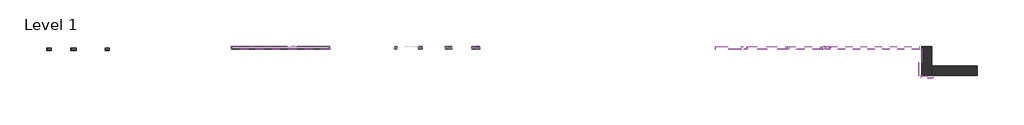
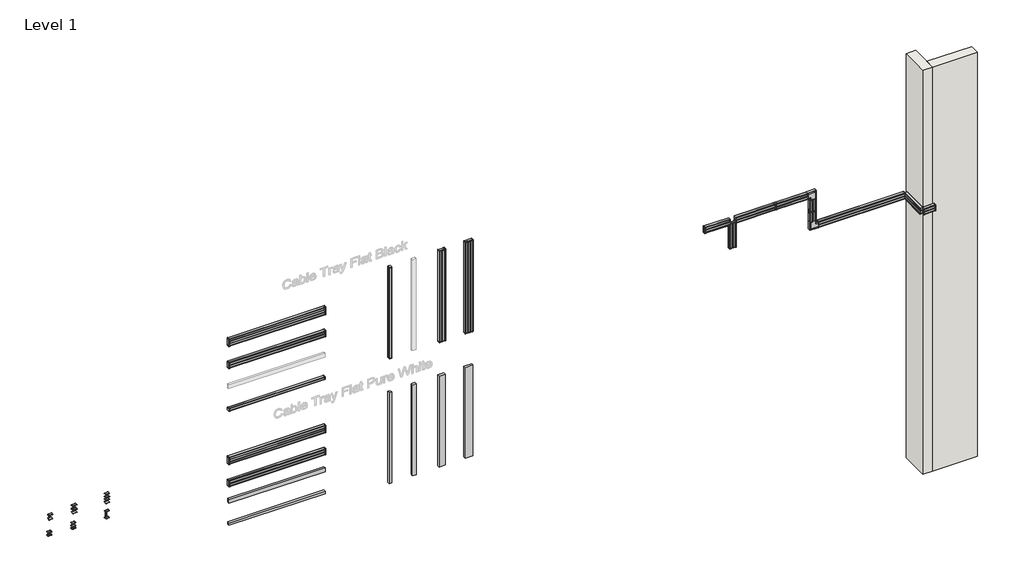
# One storey, part 1 of 2: 25 cable carrier segments, 17 proxies, 10 cable carrier fittings, 2 walls.
"""IFC4 building model written with IfcOpenShell, lengths in millimetres."""

from ifc_helpers import new_model, si_unit, frame, origin, origin_with_axes, place, context, project, spatial, polyline, outline, extrude, faceted_brep, transform, mapped, element, save
from components import ral_9010_pure_white_24a87ea1, ral_9010_pure_white_cb93105c, ral_9010_pure_white_18c5e684, ral_9010_pure_white_778c62ee, ral_9010_pure_white_cfcdc44b, ral_9010_pure_white_86e4e6ea, ral_9010_pure_white_c8628359, ral_9010_pure_white_5f65953f, ral_9010_pure_white_1ca076a8, ral_9010_pure_white_3e9eb4af, ral_9010_pure_white_502b18de, ral_9010_pure_white_b63ba4a8, ral_9010_pure_white_168bbefd, ral_9010_pure_white_928185f8, ral_9010_pure_white_964dc75e, ral_9010_pure_white_dbe64c38, ral_9010_pure_white_ffbb5359, ral_9010_pure_white_e169edea, ral_9010_pure_white_cb2eff81, ral_9010_pure_white_ebf5c71a

model = new_model("IFC4")

# Units and contexts
model_context = context("Model", 3, world=origin())
ifc_project = project(units=[si_unit("LENGTHUNIT", "METRE", prefix="MILLI")], contexts=[model_context])

# Site, building, storey
site = spatial("IfcSite", under=ifc_project)
building = spatial("IfcBuilding", under=site)
storey = spatial("IfcBuildingStorey", under=building, Name="Level 1", Elevation=4000.0)

# Proxies
placement = place(None, origin())
ral_9010_pure_white_shape = ral_9010_pure_white_24a87ea1(model_context)
element("IfcBuildingElementProxy", 1, Name="Electrical_Installations_Hager_GBD-Flat-Lid-End-Cap : RAL 9010 - pure white", ObjectType="Electrical_Installations_Hager_GBD-Flat-Lid-End-Cap : RAL 9010 - pure white", at=placement, inside=storey, context=model_context, shape_type="MappedRepresentation", body=[
    mapped(ral_9010_pure_white_shape, transform((-15206.2821542, 2571.5260198, 4915.9145405), x_axis=(1.0, 0.0, 0.0), y_axis=(0.0, 0.0, 1.0), z_axis=(0.0, -1.0, 0.0))),
])
ral_9010_pure_white_2_shape = ral_9010_pure_white_cb93105c(model_context)
element("IfcBuildingElementProxy", 2, Name="Electrical_Installations_Hager_GBD-Flat-Lid-End-Cap : RAL 9010 - pure white", ObjectType="Electrical_Installations_Hager_GBD-Flat-Lid-End-Cap : RAL 9010 - pure white", at=placement, inside=storey, context=model_context, shape_type="MappedRepresentation", body=[
    mapped(ral_9010_pure_white_2_shape, transform((-15206.2821542, 2571.5260198, 4415.9145405), x_axis=(1.0, 0.0, 0.0), y_axis=(0.0, 0.0, 1.0), z_axis=(0.0, -1.0, 0.0))),
])
ral_9010_pure_white_3_shape = ral_9010_pure_white_18c5e684(model_context)
element("IfcBuildingElementProxy", 3, Name="Electrical_Installations_Hager_GBD-Flat-Lid-End-Cap : RAL 9010 - pure white", ObjectType="Electrical_Installations_Hager_GBD-Flat-Lid-End-Cap : RAL 9010 - pure white", at=placement, inside=storey, context=model_context, shape_type="MappedRepresentation", body=[
    mapped(ral_9010_pure_white_3_shape, transform((-4716.3370055, 2567.1090613, 6480.3807305), x_axis=(0.0, 0.0, -1.0), y_axis=(1.0, 0.0, 0.0), z_axis=(0.0, -1.0, 0.0))),
])
ral_9010_pure_white_4_shape = ral_9010_pure_white_778c62ee(model_context)
element("IfcBuildingElementProxy", 4, Name="Electrical_Installations_Hager_GBD-Flat-Lid-End-Cap : RAL 9010 - pure white", ObjectType="Electrical_Installations_Hager_GBD-Flat-Lid-End-Cap : RAL 9010 - pure white", at=placement, inside=storey, context=model_context, shape_type="MappedRepresentation", body=[
    mapped(ral_9010_pure_white_4_shape, transform((-4776.3370055, 2567.1090613, 6523.4193548), x_axis=(-1.0, 0.0, 0.0), y_axis=(0.0, 0.0, -1.0), z_axis=(0.0, -1.0, 0.0))),
])
ral_9010_pure_white_5_shape = ral_9010_pure_white_cfcdc44b(model_context)
element("IfcBuildingElementProxy", 5, Name="Electrical_Installations_Hager_GBD-Flat-Lid-End-Cap : RAL 9010 - pure white", ObjectType="Electrical_Installations_Hager_GBD-Flat-Lid-End-Cap : RAL 9010 - pure white", at=placement, inside=storey, context=model_context, shape_type="MappedRepresentation", body=[
    mapped(ral_9010_pure_white_5_shape, transform((-1085.6995042, 1968.5645857, 5823.4), x_axis=(1.0, 0.0, 0.0), y_axis=(0.0, 0.0, 1.0), z_axis=(0.0, -1.0, 0.0))),
])
ral_9010_pure_white_6_shape = ral_9010_pure_white_86e4e6ea(model_context)
element("IfcBuildingElementProxy", 6, Name="Electrical_Installations_Hager_GBD-Flat-Lid-End-Cap : RAL 9010 - pure white", ObjectType="Electrical_Installations_Hager_GBD-Flat-Lid-End-Cap : RAL 9010 - pure white", at=placement, inside=storey, context=model_context, shape_type="MappedRepresentation", body=[
    mapped(ral_9010_pure_white_6_shape, transform((-2946.4405852, 2567.2503218, 5823.4053889), x_axis=(0.9999999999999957, 0.0, 9.40858470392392e-08), y_axis=(-9.408584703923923e-08, 0.0, 0.9999999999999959), z_axis=(0.0, -1.0000000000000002, 0.0))),
])
ral_9010_pure_white_7_shape = ral_9010_pure_white_c8628359(model_context)
element("IfcBuildingElementProxy", 7, Name="Electrical_Installations_Hager_GBD-Flat-Lid-End-Cap : RAL 9010 - pure white", ObjectType="Electrical_Installations_Hager_GBD-Flat-Lid-End-Cap : RAL 9010 - pure white", at=placement, inside=storey, context=model_context, shape_type="MappedRepresentation", body=[
    mapped(ral_9010_pure_white_7_shape, transform((-1081.3370042, 1964.2020857, 5823.4001917), x_axis=(0.0, 0.9999999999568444, 9.290384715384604e-06), y_axis=(0.0, 9.290384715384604e-06, -0.9999999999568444), z_axis=(-1.0, 0.0, 0.0))),
])
ral_9010_pure_white_8_shape = ral_9010_pure_white_5f65953f(model_context)
element("IfcBuildingElementProxy", 8, Name="Electrical_Installations_Hager_GBD-Flat-Lid-End-Cap : RAL 9010 - pure white", ObjectType="Electrical_Installations_Hager_GBD-Flat-Lid-End-Cap : RAL 9010 - pure white", at=placement, inside=storey, context=model_context, shape_type="MappedRepresentation", body=[
    mapped(ral_9010_pure_white_8_shape, transform((-3825.3162411, 2567.1819567, 6523.4197288), x_axis=(0.9999999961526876, 8.771785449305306e-05, 4.5007788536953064e-07), y_axis=(-4.500778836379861e-07, -3.94798664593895e-11, 0.9999999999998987), z_axis=(8.771785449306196e-05, -0.9999999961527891, 0.0))),
])
ral_9010_pure_white_9_shape = ral_9010_pure_white_1ca076a8(model_context)
element("IfcBuildingElementProxy", 9, Name="Electrical_Installations_Hager_GBD-Flat-Lid-End-Cap : RAL 9010 - pure white", ObjectType="Electrical_Installations_Hager_GBD-Flat-Lid-End-Cap : RAL 9010 - pure white", at=placement, inside=storey, context=model_context, shape_type="MappedRepresentation", body=[
    mapped(ral_9010_pure_white_9_shape, transform((-4656.3391985, 2567.1090612, 6523.4193548), x_axis=(0.9999999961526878, 8.771785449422e-05, 4.5007788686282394e-07), y_axis=(-4.500778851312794e-07, -3.94798665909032e-11, 0.9999999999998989), z_axis=(8.771785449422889e-05, -0.9999999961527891, 0.0))),
])
ral_9010_pure_white_10_shape = ral_9010_pure_white_3e9eb4af(model_context)
element("IfcBuildingElementProxy", 10, Name="Electrical_Installations_Hager_GBD-Flat-Lid-End-Cap : RAL 9010 - pure white", ObjectType="Electrical_Installations_Hager_GBD-Flat-Lid-End-Cap : RAL 9010 - pure white", at=placement, inside=storey, context=model_context, shape_type="MappedRepresentation", body=[
    mapped(ral_9010_pure_white_10_shape, transform((-3045.9405404, 2567.2503218, 6423.9200796), x_axis=(-7.457403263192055e-08, 0.0, -0.9999999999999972), y_axis=(0.9999999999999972, 0.0, -7.457403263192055e-08), z_axis=(0.0, -1.0, 8.178882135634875e-12))),
])
ral_9010_pure_white_11_shape = ral_9010_pure_white_502b18de(model_context)
element("IfcBuildingElementProxy", 11, Name="Electrical_Installations_Hager_GBD-Flat-Lid-End-Cap : RAL 9010 - pure white", ObjectType="Electrical_Installations_Hager_GBD-Flat-Lid-End-Cap : RAL 9010 - pure white", at=placement, inside=storey, context=model_context, shape_type="MappedRepresentation", body=[
    mapped(ral_9010_pure_white_11_shape, transform((-3045.9405608, 2567.2503218, 6150.7169347), x_axis=(-7.457403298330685e-08, 0.0, -0.9999999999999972), y_axis=(0.9999999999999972, 0.0, -7.457403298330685e-08), z_axis=(0.0, -1.0, 7.391453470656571e-12))),
])
element("IfcBuildingElementProxy", 12, Name="Electrical_Installations_Hager_GBD-Flat-Lid-End-Cap : RAL 9011 - black", ObjectType="Electrical_Installations_Hager_GBD-Flat-Lid-End-Cap : RAL 9011 - black", at=placement, inside=storey, context=model_context, shape_type="MappedRepresentation", body=[
    mapped(ral_9010_pure_white_shape, transform((-15206.2821542, 2571.5260198, 7515.9145405), x_axis=(1.0, 0.0, 0.0), y_axis=(0.0, 0.0, 1.0), z_axis=(0.0, -1.0, 0.0))),
])
element("IfcBuildingElementProxy", 13, Name="Electrical_Installations_Hager_GBD-Flat-Lid-End-Cap : RAL 9011 - black", ObjectType="Electrical_Installations_Hager_GBD-Flat-Lid-End-Cap : RAL 9011 - black", at=placement, inside=storey, context=model_context, shape_type="MappedRepresentation", body=[
    mapped(ral_9010_pure_white_shape, transform((-10205.0321542, 2571.5260198, 7994.6645405), x_axis=(0.0, 0.0, -1.0), y_axis=(1.0, 0.0, 0.0), z_axis=(0.0, -1.0, 0.0))),
])
element("IfcBuildingElementProxy", 14, Name="Electrical_Installations_Hager_GBD-Flat-Lid-End-Cap : RAL 9011 - black", ObjectType="Electrical_Installations_Hager_GBD-Flat-Lid-End-Cap : RAL 9011 - black", at=placement, inside=storey, context=model_context, shape_type="MappedRepresentation", body=[
    mapped(ral_9010_pure_white_2_shape, transform((-15206.2821542, 2571.5260198, 7015.9145405), x_axis=(1.0, 0.0, 0.0), y_axis=(0.0, 0.0, 1.0), z_axis=(0.0, -1.0, 0.0))),
])
element("IfcBuildingElementProxy", 15, Name="Electrical_Installations_Hager_GBD-Flat-Lid-End-Cap : RAL 9011 - black", ObjectType="Electrical_Installations_Hager_GBD-Flat-Lid-End-Cap : RAL 9011 - black", at=placement, inside=storey, context=model_context, shape_type="MappedRepresentation", body=[
    mapped(ral_9010_pure_white_2_shape, transform((-10765.0321542, 2571.5260198, 7994.6645405), x_axis=(0.0, 0.0, -1.0), y_axis=(1.0, 0.0, 0.0), z_axis=(0.0, -1.0, 0.0))),
])
ral_9010_pure_white_12_shape = ral_9010_pure_white_b63ba4a8(model_context)
element("IfcBuildingElementProxy", 16, Name="Electrical_Installations_Hager_GBD-Flat-Lid-End-Cap : RAL 9011 - black", ObjectType="Electrical_Installations_Hager_GBD-Flat-Lid-End-Cap : RAL 9011 - black", at=placement, inside=storey, context=model_context, shape_type="MappedRepresentation", body=[
    mapped(ral_9010_pure_white_12_shape, transform((-15206.2821542, 2571.5260198, 6035.9145405), x_axis=(1.0, 0.0, 0.0), y_axis=(0.0, 0.0, 1.0), z_axis=(0.0, -1.0, 0.0))),
])
element("IfcBuildingElementProxy", 17, Name="Electrical_Installations_Hager_GBD-Flat-Lid-End-Cap : RAL 9011 - black", ObjectType="Electrical_Installations_Hager_GBD-Flat-Lid-End-Cap : RAL 9011 - black", at=placement, inside=storey, context=model_context, shape_type="MappedRepresentation", body=[
    mapped(ral_9010_pure_white_12_shape, transform((-11845.0321542, 2571.5260198, 7994.6645405), x_axis=(0.0, 0.0, -1.0), y_axis=(1.0, 0.0, 0.0), z_axis=(0.0, -1.0, 0.0))),
])

# Cable carrier fittings
ral_9010_pure_white_13_shape = ral_9010_pure_white_168bbefd(model_context)
element("IfcCableCarrierFitting", 18, ObjectType="Electrical_Installations_Hager_GBD-Joint-Cover-And-Coupling-Piece-Curved : RAL 9010 - pure white", at=placement, inside=storey, context=model_context, shape_type="MappedRepresentation", body=[
    mapped(ral_9010_pure_white_13_shape, transform((-18446.2821542, 2511.5081828, 4995.9145405), x_axis=(1.0, 0.0, 0.0), y_axis=(0.0, 1.0, 0.0), z_axis=(0.0, 0.0, 1.0))),
])
ral_9010_pure_white_14_shape = ral_9010_pure_white_928185f8(model_context)
element("IfcCableCarrierFitting", 19, ObjectType="Electrical_Installations_Hager_GBD-Joint-Cover-And-Coupling-Piece-Curved : RAL 9010 - pure white", at=placement, inside=storey, context=model_context, shape_type="MappedRepresentation", body=[
    mapped(ral_9010_pure_white_14_shape, transform((-18946.2821542, 2511.5081828, 4995.9145405), x_axis=(1.0, 0.0, 0.0), y_axis=(0.0, 1.0, 0.0), z_axis=(0.0, 0.0, 1.0))),
])
ral_9010_pure_white_15_shape = ral_9010_pure_white_964dc75e(model_context)
element("IfcCableCarrierFitting", 20, ObjectType="Electrical_Installations_Hager_GBD-Joint-Cover-And-Coupling-Piece-Flat : RAL 9010 - pure white", at=placement, inside=storey, context=model_context, shape_type="MappedRepresentation", body=[
    mapped(ral_9010_pure_white_15_shape, transform((-3812.8140482, 2542.1830533, 6523.4197345), x_axis=(-0.9999999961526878, -8.771785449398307e-05, -4.500778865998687e-07), y_axis=(8.77178544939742e-05, -0.9999999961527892, 3.947986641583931e-11), z_axis=(-4.500778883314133e-07, 0.0, 0.9999999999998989))),
])
element("IfcCableCarrierFitting", 21, ObjectType="Electrical_Installations_Hager_GBD-Joint-Cover-And-Coupling-Piece-Flat : RAL 9010 - pure white", at=placement, inside=storey, context=model_context, shape_type="MappedRepresentation", body=[
    mapped(ral_9010_pure_white_15_shape, transform((-3045.9405617, 2542.2503218, 6138.2169347), x_axis=(7.457403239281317e-08, 0.0, 0.9999999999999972), y_axis=(0.0, -1.0, 0.0), z_axis=(0.9999999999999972, 0.0, -7.457403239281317e-08))),
])
element("IfcCableCarrierFitting", 22, ObjectType="Electrical_Installations_Hager_GBD-Joint-Cover-And-Coupling-Piece-Flat : RAL 9010 - pure white", at=placement, inside=storey, context=model_context, shape_type="MappedRepresentation", body=[
    mapped(ral_9010_pure_white_15_shape, transform((-18466.2821542, 2511.5081828, 4636.1536122), x_axis=(1.0, 0.0, 0.0), y_axis=(0.0, 1.0, 0.0), z_axis=(0.0, 0.0, 1.0))),
])
ral_9010_pure_white_16_shape = ral_9010_pure_white_dbe64c38(model_context)
element("IfcCableCarrierFitting", 23, ObjectType="Electrical_Installations_Hager_GBD-Joint-Cover-And-Coupling-Piece-Flat : RAL 9010 - pure white", at=placement, inside=storey, context=model_context, shape_type="MappedRepresentation", body=[
    mapped(ral_9010_pure_white_16_shape, transform((-18966.2821542, 2511.5081828, 4634.6497476), x_axis=(1.0, 0.0, 0.0), y_axis=(0.0, 1.0, 0.0), z_axis=(0.0, 0.0, 1.0))),
])
ral_9010_pure_white_17_shape = ral_9010_pure_white_ffbb5359(model_context)
element("IfcCableCarrierFitting", 24, ObjectType="Electrical_Installations_Hager_GBD-Flat-Corner-Vertical-Inside-And-Outside-Bend-Flat : RAL 9010 - pure white", at=placement, inside=storey, context=model_context, shape_type="MappedRepresentation", body=[
    mapped(ral_9010_pure_white_17_shape, transform((-3045.9405852, 2542.2503218, 6523.4200796), x_axis=(0.9999999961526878, 8.771785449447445e-05, 4.5007788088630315e-07), y_axis=(4.5007787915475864e-07, 3.9479866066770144e-11, -0.9999999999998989), z_axis=(-8.771785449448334e-05, 0.9999999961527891, 0.0))),
])
ral_9010_pure_white_18_shape = ral_9010_pure_white_e169edea(model_context)
element("IfcCableCarrierFitting", 25, ObjectType="Electrical_Installations_Hager_GBD-Flat-Corner-Vertical-Inside-And-Outside-Bend-Flat : RAL 9010 - pure white", at=placement, inside=storey, context=model_context, shape_type="MappedRepresentation", body=[
    mapped(ral_9010_pure_white_18_shape, transform((-3045.9405852, 2542.2503218, 5823.4053963), x_axis=(-7.457401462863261e-08, 0.0, -0.9999999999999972), y_axis=(0.9999999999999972, 0.0, -7.457401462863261e-08), z_axis=(0.0, -1.0, 0.0))),
])
ral_9010_pure_white_19_shape = ral_9010_pure_white_cb2eff81(model_context)
element("IfcCableCarrierFitting", 26, ObjectType="Electrical_Installations_Hager_GBD-Joint-Cover-And-Coupling-Piece-Curved : RAL 9010 - pure white", at=placement, inside=storey, context=model_context, shape_type="MappedRepresentation", body=[
    mapped(ral_9010_pure_white_19_shape, transform((-17766.2821542, 2511.5081828, 4995.9145405), x_axis=(1.0, 0.0, 0.0), y_axis=(0.0, 1.0, 0.0), z_axis=(0.0, 0.0, 1.0))),
])
ral_9010_pure_white_20_shape = ral_9010_pure_white_ebf5c71a(model_context)
element("IfcCableCarrierFitting", 27, ObjectType="Electrical_Installations_Hager_GBD-Joint-Cover-And-Coupling-Piece-Flat : RAL 9010 - pure white", at=placement, inside=storey, context=model_context, shape_type="MappedRepresentation", body=[
    mapped(ral_9010_pure_white_20_shape, transform((-17766.2821542, 2511.5081828, 4636.1536122), x_axis=(1.0, 0.0, 0.0), y_axis=(0.0, 1.0, 0.0), z_axis=(0.0, 0.0, 1.0))),
])

# Cable carrier segments
element("IfcCableCarrierSegment", 28, ObjectType="Electrical_Installations_Hager_Trunking-GBD-RAL9011-Black-Upper-Part-Flat", at=placement, inside=storey, context=model_context, shape_type="SweptSolid", body=[
    extrude(outline(polyline([(-15206.2821542, 2521.5260198), (-15206.2821542, 2571.5260198), (-13206.2821542, 2571.5260198), (-13206.2821542, 2521.5260198), (-15206.2821542, 2521.5260198)])), frame((0.0, 0.0, 6010.9145405), z_axis=(0.0, 0.0, 1.0), x_axis=(1.0, 0.0, 0.0)), (0.0, 0.0, 1.0), 50.0),
])
element("IfcCableCarrierSegment", 29, ObjectType="Electrical_Installations_Hager_Trunking-GBD-RAL9011-Black-Upper-Part-Flat", at=placement, inside=storey, context=model_context, shape_type="SweptSolid", body=[
    extrude(outline(polyline([(-15206.2821542, 2521.5260198), (-15206.2821542, 2571.5260198), (-13206.2821542, 2571.5260198), (-13206.2821542, 2521.5260198), (-15206.2821542, 2521.5260198)])), frame((0.0, 0.0, 6495.9145405), z_axis=(0.0, 0.0, 1.0), x_axis=(1.0, 0.0, 0.0)), (0.0, 0.0, 1.0), 80.0),
])
element("IfcCableCarrierSegment", 30, ObjectType="Electrical_Installations_Hager_Trunking-GBD-RAL9011-Black-Upper-Part-Flat", at=placement, inside=storey, context=model_context, shape_type="SweptSolid", body=[
    extrude(outline(polyline([(-15206.2821542, 2521.5260198), (-15206.2821542, 2571.5260198), (-13206.2821542, 2571.5260198), (-13206.2821542, 2521.5260198), (-15206.2821542, 2521.5260198)])), frame((0.0, 0.0, 6950.9145405), z_axis=(0.0, 0.0, 1.0), x_axis=(1.0, 0.0, 0.0)), (0.0, 0.0, 1.0), 130.0),
])
element("IfcCableCarrierSegment", 31, ObjectType="Electrical_Installations_Hager_Trunking-GBD-RAL9011-Black-Upper-Part-Flat", at=placement, inside=storey, context=model_context, shape_type="SweptSolid", body=[
    extrude(outline(polyline([(-15206.2821542, 2521.5260198), (-15206.2821542, 2571.5260198), (-13206.2821542, 2571.5260198), (-13206.2821542, 2521.5260198), (-15206.2821542, 2521.5260198)])), frame((0.0, 0.0, 7435.9145405), z_axis=(0.0, 0.0, 1.0), x_axis=(1.0, 0.0, 0.0)), (0.0, 0.0, 1.0), 160.0),
])
element("IfcCableCarrierSegment", 32, ObjectType="Electrical_Installations_Hager_Trunking-GBD-RAL9011-Black-Upper-Part-Flat", at=placement, inside=storey, context=model_context, shape_type="SweptSolid", body=[
    extrude(outline(polyline([(-11870.0321542, 2521.5260198), (-11870.0321542, 2571.5260198), (-11820.0321542, 2571.5260198), (-11820.0321542, 2521.5260198), (-11870.0321542, 2521.5260198)])), frame((0.0, 0.0, 5994.6645405), z_axis=(0.0, 0.0, 1.0), x_axis=(1.0, 0.0, 0.0)), (0.0, 0.0, 1.0), 2000.0),
])
element("IfcCableCarrierSegment", 33, ObjectType="Electrical_Installations_Hager_Trunking-GBD-RAL9011-Black-Upper-Part-Flat", at=placement, inside=storey, context=model_context, shape_type="SweptSolid", body=[
    extrude(outline(polyline([(-11385.0321542, 2521.5260198), (-11385.0321542, 2571.5260198), (-11305.0321542, 2571.5260198), (-11305.0321542, 2521.5260198), (-11385.0321542, 2521.5260198)])), frame((0.0, 0.0, 5994.6645405), z_axis=(0.0, 0.0, 1.0), x_axis=(1.0, 0.0, 0.0)), (0.0, 0.0, 1.0), 2000.0),
])
element("IfcCableCarrierSegment", 34, ObjectType="Electrical_Installations_Hager_Trunking-GBD-RAL9011-Black-Upper-Part-Flat", at=placement, inside=storey, context=model_context, shape_type="SweptSolid", body=[
    extrude(outline(polyline([(-10830.0321542, 2521.5260198), (-10830.0321542, 2571.5260198), (-10700.0321542, 2571.5260198), (-10700.0321542, 2521.5260198), (-10830.0321542, 2521.5260198)])), frame((0.0, 0.0, 5994.6645405), z_axis=(0.0, 0.0, 1.0), x_axis=(1.0, 0.0, 0.0)), (0.0, 0.0, 1.0), 2000.0),
])
element("IfcCableCarrierSegment", 35, ObjectType="Electrical_Installations_Hager_Trunking-GBD-RAL9011-Black-Upper-Part-Flat", at=placement, inside=storey, context=model_context, shape_type="SweptSolid", body=[
    extrude(outline(polyline([(-10285.0321542, 2521.5260198), (-10285.0321542, 2571.5260198), (-10125.0321542, 2571.5260198), (-10125.0321542, 2521.5260198), (-10285.0321542, 2521.5260198)])), frame((0.0, 0.0, 5994.6645405), z_axis=(0.0, 0.0, 1.0), x_axis=(1.0, 0.0, 0.0)), (0.0, 0.0, 1.0), 2000.0),
])
element("IfcCableCarrierSegment", 36, ObjectType="Electrical_Installations_Hager_Trunking-GBD-RAL9010-Pure-White-Upper-Part-Flat", at=placement, inside=storey, context=model_context, shape_type="SweptSolid", body=[
    extrude(outline(polyline([(-15206.2821542, 2521.5260198), (-15206.2821542, 2571.5260198), (-13206.2821542, 2571.5260198), (-13206.2821542, 2521.5260198), (-15206.2821542, 2521.5260198)])), frame((0.0, 0.0, 3490.9145405), z_axis=(0.0, 0.0, 1.0), x_axis=(1.0, 0.0, 0.0)), (0.0, 0.0, 1.0), 50.0),
])
element("IfcCableCarrierSegment", 37, ObjectType="Electrical_Installations_Hager_Trunking-GBD-RAL9010-Pure-White-Upper-Part-Flat", at=placement, inside=storey, context=model_context, shape_type="SweptSolid", body=[
    extrude(outline(polyline([(-15206.2821542, 2521.5260198), (-15206.2821542, 2571.5260198), (-13206.2821542, 2571.5260198), (-13206.2821542, 2521.5260198), (-15206.2821542, 2521.5260198)])), frame((0.0, 0.0, 3975.9145405), z_axis=(0.0, 0.0, 1.0), x_axis=(1.0, 0.0, 0.0)), (0.0, 0.0, 1.0), 80.0),
])
element("IfcCableCarrierSegment", 38, ObjectType="Electrical_Installations_Hager_Trunking-GBD-RAL9010-Pure-White-Upper-Part-Flat", at=placement, inside=storey, context=model_context, shape_type="SweptSolid", body=[
    extrude(outline(polyline([(-15206.2821542, 2521.5260198), (-15206.2821542, 2571.5260198), (-13206.2821542, 2571.5260198), (-13206.2821542, 2521.5260198), (-15206.2821542, 2521.5260198)])), frame((0.0, 0.0, 4350.9145405), z_axis=(0.0, 0.0, 1.0), x_axis=(1.0, 0.0, 0.0)), (0.0, 0.0, 1.0), 130.0),
])
element("IfcCableCarrierSegment", 39, ObjectType="Electrical_Installations_Hager_Trunking-GBD-RAL9010-Pure-White-Upper-Part-Flat", at=placement, inside=storey, context=model_context, shape_type="SweptSolid", body=[
    extrude(outline(polyline([(-15206.2821542, 2521.5260198), (-15206.2821542, 2571.5260198), (-13206.2821542, 2571.5260198), (-13206.2821542, 2521.5260198), (-15206.2821542, 2521.5260198)])), frame((0.0, 0.0, 4835.9145405), z_axis=(0.0, 0.0, 1.0), x_axis=(1.0, 0.0, 0.0)), (0.0, 0.0, 1.0), 160.0),
])
element("IfcCableCarrierSegment", 40, ObjectType="Electrical_Installations_Hager_Trunking-GBD-RAL9010-Pure-White-Upper-Part-Flat", at=placement, inside=storey, context=model_context, shape_type="SweptSolid", body=[
    extrude(outline(polyline([(-11870.0321542, 2521.5260198), (-11870.0321542, 2571.5260198), (-11820.0321542, 2571.5260198), (-11820.0321542, 2521.5260198), (-11870.0321542, 2521.5260198)])), frame((0.0, 0.0, 3243.4145405), z_axis=(0.0, 0.0, 1.0), x_axis=(1.0, 0.0, 0.0)), (0.0, 0.0, 1.0), 2000.0),
])
element("IfcCableCarrierSegment", 41, ObjectType="Electrical_Installations_Hager_Trunking-GBD-RAL9010-Pure-White-Upper-Part-Flat", at=placement, inside=storey, context=model_context, shape_type="SweptSolid", body=[
    extrude(outline(polyline([(-11385.0321542, 2521.5260198), (-11385.0321542, 2571.5260198), (-11305.0321542, 2571.5260198), (-11305.0321542, 2521.5260198), (-11385.0321542, 2521.5260198)])), frame((0.0, 0.0, 3243.4145405), z_axis=(0.0, 0.0, 1.0), x_axis=(1.0, 0.0, 0.0)), (0.0, 0.0, 1.0), 2000.0),
])
element("IfcCableCarrierSegment", 42, ObjectType="Electrical_Installations_Hager_Trunking-GBD-RAL9010-Pure-White-Upper-Part-Flat", at=placement, inside=storey, context=model_context, shape_type="SweptSolid", body=[
    extrude(outline(polyline([(-10830.0321542, 2521.5260198), (-10830.0321542, 2571.5260198), (-10700.0321542, 2571.5260198), (-10700.0321542, 2521.5260198), (-10830.0321542, 2521.5260198)])), frame((0.0, 0.0, 3243.4145405), z_axis=(0.0, 0.0, 1.0), x_axis=(1.0, 0.0, 0.0)), (0.0, 0.0, 1.0), 2000.0),
])
element("IfcCableCarrierSegment", 43, ObjectType="Electrical_Installations_Hager_Trunking-GBD-RAL9010-Pure-White-Upper-Part-Flat", at=placement, inside=storey, context=model_context, shape_type="SweptSolid", body=[
    extrude(outline(polyline([(-10285.0321542, 2521.5260198), (-10285.0321542, 2571.5260198), (-10125.0321542, 2571.5260198), (-10125.0321542, 2521.5260198), (-10285.0321542, 2521.5260198)])), frame((0.0, 0.0, 3243.4145405), z_axis=(0.0, 0.0, 1.0), x_axis=(1.0, 0.0, 0.0)), (0.0, 0.0, 1.0), 2000.0),
])
element("IfcCableCarrierSegment", 44, ObjectType="Electrical_Installations_Hager_Trunking-GBD-RAL9010-Pure-White-Upper-Part-Flat", at=placement, inside=storey, context=model_context, shape_type="SweptSolid", body=[
    extrude(outline(polyline([(-4776.3370055, 2567.1090613), (-4776.3370055, 2517.1090613), (-5296.3370055, 2517.1090613), (-5296.3370055, 2567.1090613), (-4776.3370055, 2567.1090613)])), frame((0.0, 0.0, 6458.4193548), z_axis=(0.0, 0.0, 1.0), x_axis=(1.0, 0.0, 0.0)), (0.0, 0.0, 1.0), 130.0),
])
element("IfcCableCarrierSegment", 45, ObjectType="Electrical_Installations_Hager_Trunking-GBD-RAL9010-Pure-White-Upper-Part-Flat", at=placement, inside=storey, context=model_context, shape_type="SweptSolid", body=[
    extrude(outline(polyline([(-4781.3370055, 2517.1090613), (-4781.3370055, 2567.1090613), (-4651.3370055, 2567.1090613), (-4651.3370055, 2517.1090613), (-4781.3370055, 2517.1090613)])), frame((0.0, 0.0, 5940.3807305), z_axis=(0.0, 0.0, 1.0), x_axis=(1.0, 0.0, 0.0)), (0.0, 0.0, 1.0), 540.0),
])
element("IfcCableCarrierSegment", 46, ObjectType="Electrical_Installations_Hager_Trunking-GBD-RAL9010-Pure-White-Upper-Part-Flat", at=placement, inside=storey, context=model_context, shape_type="SweptSolid", body=[
    extrude(outline(polyline([(0.0, -50.0), (0.0, 0.0), (557.4107361, 0.0), (557.4107361, -50.0), (0.0, -50.0)])), frame((-1131.3370042, 1964.2026896, 5758.4001917), z_axis=(0.0, -9.290384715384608e-06, 0.9999999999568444), x_axis=(0.0, 0.9999999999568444, 9.290384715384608e-06)), (0.0, 0.0, 1.0), 130.0),
])
element("IfcCableCarrierSegment", 47, ObjectType="Electrical_Installations_Hager_Trunking-GBD-RAL9010-Pure-White-Upper-Part-Flat", at=placement, inside=storey, context=model_context, shape_type="SweptSolid", body=[
    extrude(outline(polyline([(-1085.6995042, 1918.5645857), (-1085.6995042, 1968.5645857), (-846.3370042, 1968.5645857), (-846.3370042, 1918.5645857), (-1085.6995042, 1918.5645857)])), frame((0.0, 0.0, 5758.4), z_axis=(0.0, 0.0, 1.0), x_axis=(1.0, 0.0, 0.0)), (0.0, 0.0, 1.0), 130.0),
])
element("IfcCableCarrierSegment", 48, ObjectType="Electrical_Installations_Hager_Trunking-GBD-RAL9010-Pure-White-Upper-Part-Flat", at=placement, inside=storey, context=model_context, shape_type="SweptSolid", body=[
    extrude(outline(polyline([(0.0, -50.0), (0.0, 0.0), (679.873466, 1e-07), (679.873466, -49.9999999), (0.0, -50.0)])), frame((-3825.3162119, 2567.1819567, 6458.4197288), z_axis=(-4.500778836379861e-07, -3.947986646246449e-11, 0.9999999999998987), x_axis=(0.9999999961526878, 8.771785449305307e-05, 4.500778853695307e-07)), (0.0, 0.0, 1.0), 130.0),
])
element("IfcCableCarrierSegment", 49, ObjectType="Electrical_Installations_Hager_Trunking-GBD-RAL9010-Pure-White-Upper-Part-Flat", at=placement, inside=storey, context=model_context, shape_type="SweptSolid", body=[
    extrude(outline(polyline([(65.0, -44.6419414), (65.0, -94.6419414), (-65.0, -94.6419414), (-65.0, -44.6419414), (65.0, -44.6419414)])), frame((-3045.9405777, 2472.6083804, 5922.9053963), z_axis=(7.457403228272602e-08, 7.39358078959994e-12, 0.9999999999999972), x_axis=(-0.9999999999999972, 0.0, 7.457403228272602e-08)), (0.0, 0.0, 1.0), 227.8115384),
])
element("IfcCableCarrierSegment", 50, ObjectType="Electrical_Installations_Hager_Trunking-GBD-RAL9010-Pure-White-Upper-Part-Flat", at=placement, inside=storey, context=model_context, shape_type="SweptSolid", body=[
    extrude(outline(polyline([(0.0, -50.0), (0.0, 0.0), (1819.466081, 0.0), (1819.466081, -50.0), (0.0, -50.0)])), frame((-2946.440579, 2567.2503218, 5758.4053889), z_axis=(-9.408584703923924e-08, 0.0, 0.9999999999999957), x_axis=(0.9999999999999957, 0.0, 9.408584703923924e-08)), (0.0, 0.0, 1.0), 130.0),
])
element("IfcCableCarrierSegment", 51, ObjectType="Electrical_Installations_Hager_Trunking-GBD-RAL9010-Pure-White-Upper-Part-Flat", at=placement, inside=storey, context=model_context, shape_type="SweptSolid", body=[
    extrude(outline(polyline([(0.0, -50.0), (0.0, 0.0), (831.0229605, -1e-07), (831.0229605, -50.0), (0.0, -50.0)])), frame((-4656.3391692, 2567.1090612, 6458.4193548), z_axis=(-4.500778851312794e-07, -3.9479866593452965e-11, 0.9999999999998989), x_axis=(0.9999999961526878, 8.771785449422e-05, 4.5007788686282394e-07)), (0.0, 0.0, 1.0), 130.0),
])
element("IfcCableCarrierSegment", 52, ObjectType="Electrical_Installations_Hager_Trunking-GBD-RAL9010-Pure-White-Upper-Part-Flat", at=placement, inside=storey, context=model_context, shape_type="SweptSolid", body=[
    extrude(outline(polyline([(65.0, -44.6419414), (65.0, -94.6419414), (-65.0, -94.6419414), (-65.0, -44.6419414), (65.0, -44.6419414)])), frame((-3045.9405608, 2472.6083804, 6150.7169347), z_axis=(7.457403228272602e-08, 8.178808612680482e-12, 0.9999999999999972), x_axis=(-0.9999999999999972, 0.0, 7.457403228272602e-08)), (0.0, 0.0, 1.0), 273.2031449),
])

# Walls
element("IfcWall", 53, ObjectType="Hager Wall", at=placement, inside=storey, context=model_context, shape_type="Brep", body=[
    faceted_brep([(-1076.3370042, 2571.5081828, 0.0), (-1076.3370042, 1971.5081828, 0.0), (-1076.3370042, 1971.5081828, 8900.0), (-1076.3370042, 2571.5081828, 8900.0), (-876.3370042, 2571.5081828, 0.0), (-876.3370042, 2571.5081828, 8900.0), (-876.3370042, 2171.5081828, 8900.0), (-876.3370042, 1971.5081828, 8900.0), (-876.3370042, 1971.5081828, 0.0), (-876.3370042, 2171.5081828, 0.0)], [[[0, 1, 2, 3]], [[4, 5, 6, 7, 8, 9]], [[1, 0, 4, 9, 8]], [[3, 2, 7, 6, 5]], [[0, 3, 5, 4]], [[2, 1, 8, 7]]]),
])
element("IfcWall", 54, ObjectType="Hager Wall", at=placement, inside=storey, context=model_context, shape_type="SweptSolid", body=[
    extrude(outline(polyline([(63.6629958, 1971.5081828), (-876.3370042, 1971.5081828), (-876.3370042, 2171.5081828), (63.6629958, 2171.5081828), (63.6629958, 1971.5081828)])), origin_with_axes(), (0.0, 0.0, 1.0), 8900.0),
])

save(model, "model.ifc")
